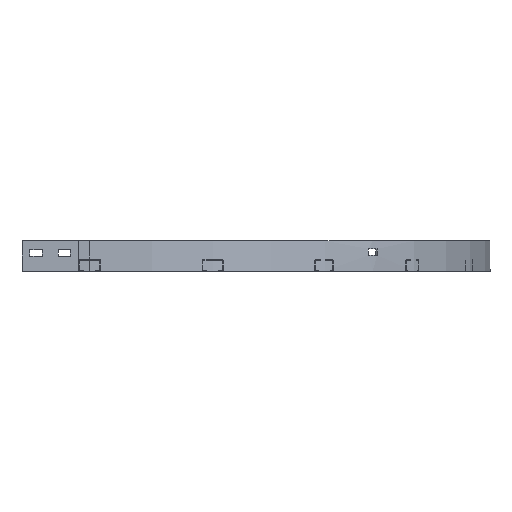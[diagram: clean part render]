
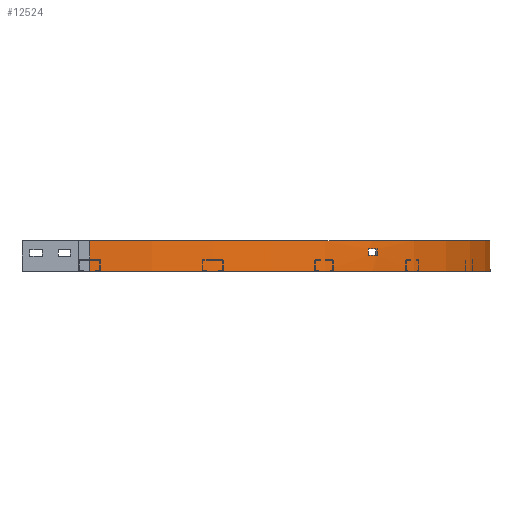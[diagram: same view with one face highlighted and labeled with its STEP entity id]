
A CAD part, front view. The second image highlights one B-rep face of the part: STEP entity #12524.
In plain terms, the highlighted cylindrical face has radius 711 mm (diameter 1422 mm), a partial arc.
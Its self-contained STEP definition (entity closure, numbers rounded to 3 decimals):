
#323=FACE_BOUND('',#1804,.T.);
#571=CYLINDRICAL_SURFACE('',#13199,711.);
#604=CIRCLE('',#13191,711.);
#609=CIRCLE('',#13198,711.);
#610=CIRCLE('',#13200,711.);
#611=CIRCLE('',#13201,711.);
#1154=FACE_OUTER_BOUND('',#1803,.T.);
#1803=EDGE_LOOP('',(#8480,#8481,#8482,#8483));
#1804=EDGE_LOOP('',(#8484,#8485,#8486,#8487));
#2699=LINE('',#17437,#4015);
#2705=LINE('',#17461,#4021);
#2706=LINE('',#17466,#4022);
#2707=LINE('',#17469,#4023);
#4015=VECTOR('',#14194,304.8);
#4021=VECTOR('',#14220,304.8);
#4022=VECTOR('',#14223,304.8);
#4023=VECTOR('',#14226,304.8);
#5328=VERTEX_POINT('',#17430);
#5331=VERTEX_POINT('',#17435);
#5332=VERTEX_POINT('',#17439);
#5339=VERTEX_POINT('',#17457);
#5340=VERTEX_POINT('',#17462);
#5341=VERTEX_POINT('',#17463);
#5342=VERTEX_POINT('',#17465);
#5343=VERTEX_POINT('',#17467);
#6579=EDGE_CURVE('',#5331,#5328,#2699,.T.);
#6580=EDGE_CURVE('',#5328,#5332,#604,.T.);
#6590=EDGE_CURVE('',#5339,#5331,#609,.T.);
#6591=EDGE_CURVE('',#5332,#5339,#2705,.T.);
#6592=EDGE_CURVE('',#5340,#5341,#610,.T.);
#6593=EDGE_CURVE('',#5341,#5342,#2706,.T.);
#6594=EDGE_CURVE('',#5342,#5343,#611,.T.);
#6595=EDGE_CURVE('',#5343,#5340,#2707,.T.);
#8480=ORIENTED_EDGE('',*,*,#6579,.F.);
#8481=ORIENTED_EDGE('',*,*,#6590,.F.);
#8482=ORIENTED_EDGE('',*,*,#6591,.F.);
#8483=ORIENTED_EDGE('',*,*,#6580,.F.);
#8484=ORIENTED_EDGE('',*,*,#6592,.T.);
#8485=ORIENTED_EDGE('',*,*,#6593,.T.);
#8486=ORIENTED_EDGE('',*,*,#6594,.T.);
#8487=ORIENTED_EDGE('',*,*,#6595,.T.);
#12524=ADVANCED_FACE('',(#1154,#323),#571,.T.);
#13191=AXIS2_PLACEMENT_3D('',#17440,#14197,#14198);
#13198=AXIS2_PLACEMENT_3D('',#17459,#14216,#14217);
#13199=AXIS2_PLACEMENT_3D('',#17460,#14218,#14219);
#13200=AXIS2_PLACEMENT_3D('',#17464,#14221,#14222);
#13201=AXIS2_PLACEMENT_3D('',#17468,#14224,#14225);
#14194=DIRECTION('',(0.,0.,1.));
#14197=DIRECTION('center_axis',(0.,0.,1.));
#14198=DIRECTION('ref_axis',(0.,-1.,0.));
#14216=DIRECTION('center_axis',(0.,0.,-1.));
#14217=DIRECTION('ref_axis',(0.,-1.,0.));
#14218=DIRECTION('center_axis',(0.,0.,1.));
#14219=DIRECTION('ref_axis',(0.,-1.,0.));
#14220=DIRECTION('',(0.,0.,-1.));
#14221=DIRECTION('center_axis',(0.,0.,1.));
#14222=DIRECTION('ref_axis',(0.,-1.,0.));
#14223=DIRECTION('',(0.,0.,-1.));
#14224=DIRECTION('center_axis',(0.,0.,-1.));
#14225=DIRECTION('ref_axis',(0.,-1.,0.));
#14226=DIRECTION('',(0.,0.,1.));
#17430=CARTESIAN_POINT('',(-505.5,-205.5,27.));
#17435=CARTESIAN_POINT('',(-505.5,-205.5,-27.));
#17437=CARTESIAN_POINT('',(-505.5,-205.5,-27.));
#17439=CARTESIAN_POINT('',(205.5,505.5,27.));
#17440=CARTESIAN_POINT('Origin',(-505.5,505.5,27.));
#17457=CARTESIAN_POINT('',(205.5,505.5,-27.));
#17459=CARTESIAN_POINT('Origin',(-505.5,505.5,-27.));
#17460=CARTESIAN_POINT('Origin',(-505.5,505.5,0.));
#17461=CARTESIAN_POINT('',(205.5,505.5,27.));
#17462=CARTESIAN_POINT('',(-10.517,-4.904,12.5));
#17463=CARTESIAN_POINT('',(5.038,10.654,12.5));
#17464=CARTESIAN_POINT('Origin',(-505.5,505.5,12.5));
#17465=CARTESIAN_POINT('',(5.038,10.654,1.5));
#17466=CARTESIAN_POINT('',(5.038,10.654,12.5));
#17467=CARTESIAN_POINT('',(-10.517,-4.904,1.5));
#17468=CARTESIAN_POINT('Origin',(-505.5,505.5,1.5));
#17469=CARTESIAN_POINT('',(-10.517,-4.904,1.5));
